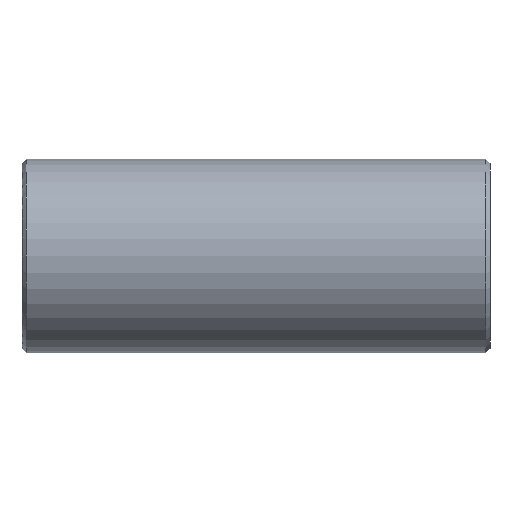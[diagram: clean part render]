
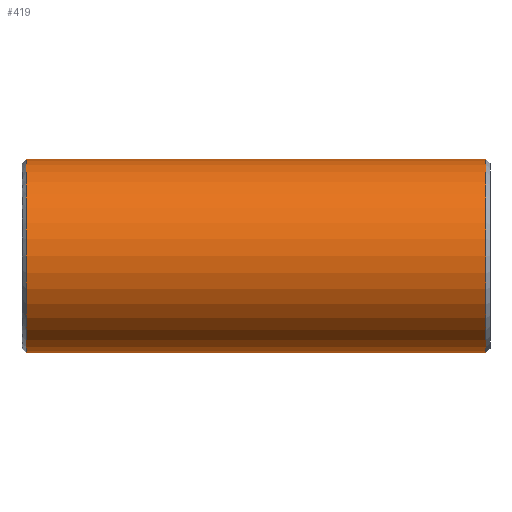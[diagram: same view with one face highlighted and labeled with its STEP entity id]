
A CAD part, front view. The second image highlights one B-rep face of the part: STEP entity #419.
In plain terms, the highlighted cylindrical face has radius 24 mm (diameter 48 mm), a partial arc.
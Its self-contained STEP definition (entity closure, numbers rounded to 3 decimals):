
#231=CARTESIAN_POINT('Vertex',(1.,0.,-24.)) ;
#238=CARTESIAN_POINT('Vertex',(1.,0.,24.)) ;
#267=CARTESIAN_POINT('Axis2P3D Location',(1.,0.,0.)) ;
#271=CARTESIAN_POINT('Vertex',(1.,-24.,0.)) ;
#274=CARTESIAN_POINT('Axis2P3D Location',(1.,0.,0.)) ;
#359=CARTESIAN_POINT('Line Origine',(116.,0.,24.)) ;
#363=CARTESIAN_POINT('Vertex',(115.,0.,24.)) ;
#377=CARTESIAN_POINT('Vertex',(115.,0.,-24.)) ;
#380=CARTESIAN_POINT('Line Origine',(116.,0.,-24.)) ;
#394=CARTESIAN_POINT('Axis2P3D Location',(116.,0.,0.)) ;
#399=CARTESIAN_POINT('Axis2P3D Location',(115.,0.,0.)) ;
#403=CARTESIAN_POINT('Vertex',(115.,-24.,0.)) ;
#406=CARTESIAN_POINT('Axis2P3D Location',(115.,0.,0.)) ;
#268=DIRECTION('Axis2P3D Direction',(1.,0.,-0.)) ;
#275=DIRECTION('Axis2P3D Direction',(1.,0.,-0.)) ;
#360=DIRECTION('Vector Direction',(-1.,0.,0.)) ;
#381=DIRECTION('Vector Direction',(-1.,0.,0.)) ;
#395=DIRECTION('Axis2P3D Direction',(-1.,-0.,-0.)) ;
#396=DIRECTION('Axis2P3D XDirection',(0.,0.,-1.)) ;
#400=DIRECTION('Axis2P3D Direction',(-1.,-0.,-0.)) ;
#407=DIRECTION('Axis2P3D Direction',(-1.,-0.,-0.)) ;
#269=AXIS2_PLACEMENT_3D('Circle Axis2P3D',#267,#268,$) ;
#276=AXIS2_PLACEMENT_3D('Circle Axis2P3D',#274,#275,$) ;
#397=AXIS2_PLACEMENT_3D('Cylinder Axis2P3D',#394,#395,#396) ;
#401=AXIS2_PLACEMENT_3D('Circle Axis2P3D',#399,#400,$) ;
#408=AXIS2_PLACEMENT_3D('Circle Axis2P3D',#406,#407,$) ;
#412=ORIENTED_EDGE('',*,*,#384,.T.) ;
#413=ORIENTED_EDGE('',*,*,#405,.F.) ;
#414=ORIENTED_EDGE('',*,*,#410,.F.) ;
#415=ORIENTED_EDGE('',*,*,#365,.T.) ;
#416=ORIENTED_EDGE('',*,*,#278,.T.) ;
#417=ORIENTED_EDGE('',*,*,#273,.T.) ;
#361=VECTOR('Line Direction',#360,1.) ;
#382=VECTOR('Line Direction',#381,1.) ;
#419=ADVANCED_FACE('352-40X116',(#418),#398,.T.) ;
#270=CIRCLE('generated circle',#269,24.) ;
#277=CIRCLE('generated circle',#276,24.) ;
#402=CIRCLE('generated circle',#401,24.) ;
#409=CIRCLE('generated circle',#408,24.) ;
#398=CYLINDRICAL_SURFACE('generated cylinder',#397,24.) ;
#273=EDGE_CURVE('',#272,#232,#270,.T.) ;
#278=EDGE_CURVE('',#239,#272,#277,.T.) ;
#365=EDGE_CURVE('',#364,#239,#362,.T.) ;
#384=EDGE_CURVE('',#232,#378,#383,.F.) ;
#405=EDGE_CURVE('',#404,#378,#402,.F.) ;
#410=EDGE_CURVE('',#364,#404,#409,.F.) ;
#411=EDGE_LOOP('',(#412,#413,#414,#415,#416,#417)) ;
#418=FACE_OUTER_BOUND('',#411,.T.) ;
#362=LINE('Line',#359,#361) ;
#383=LINE('Line',#380,#382) ;
#232=VERTEX_POINT('',#231) ;
#239=VERTEX_POINT('',#238) ;
#272=VERTEX_POINT('',#271) ;
#364=VERTEX_POINT('',#363) ;
#378=VERTEX_POINT('',#377) ;
#404=VERTEX_POINT('',#403) ;
